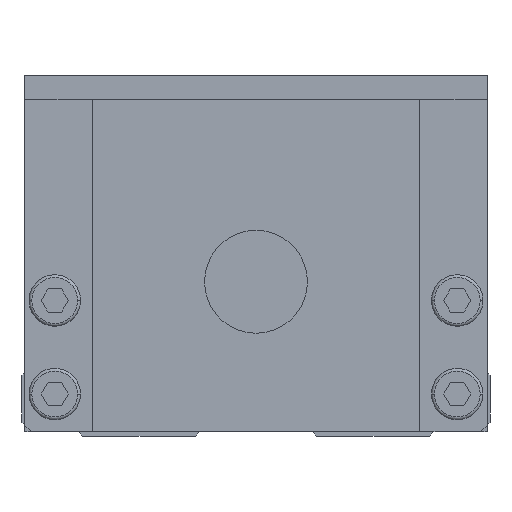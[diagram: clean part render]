
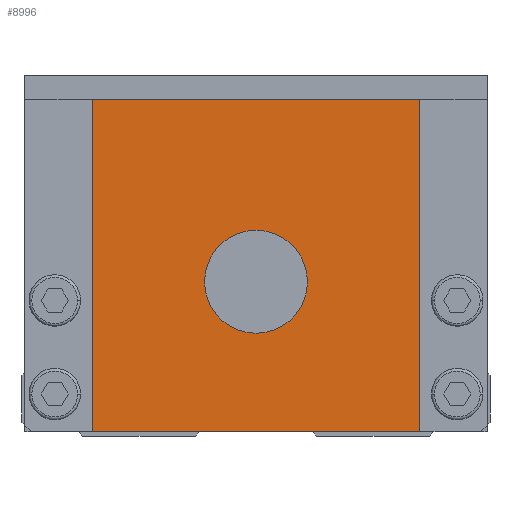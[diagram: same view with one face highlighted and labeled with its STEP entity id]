
A CAD part, front view. The second image highlights one B-rep face of the part: STEP entity #8996.
In plain terms, the highlighted planar face has unit normal (0, -1, 0).
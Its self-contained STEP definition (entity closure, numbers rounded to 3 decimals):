
#4442=VERTEX_POINT('',#11262);
#5188=EDGE_CURVE('',#7378,#6918,#12083,.T.);
#5360=VERTEX_POINT('',#12283);
#5556=EDGE_CURVE('',#5360,#4442,#12499,.T.);
#6062=EDGE_CURVE('',#5360,#7672,#13067,.T.);
#6470=EDGE_CURVE('',#6810,#7672,#13519,.T.);
#6566=EDGE_CURVE('',#4442,#6810,#13626,.T.);
#6810=VERTEX_POINT('',#13894);
#6918=VERTEX_POINT('',#14025);
#7378=VERTEX_POINT('',#14537);
#7622=EDGE_CURVE('',#6918,#7378,#14801,.T.);
#7672=VERTEX_POINT('',#14858);
#8996=ADVANCED_FACE('',(#16323,#16324),#16325,.F.);
#11262=CARTESIAN_POINT('',(17.5,0.0,36.0));
#12083=CIRCLE('',#20401,5.5);
#12283=CARTESIAN_POINT('',(-17.5,0.0,36.0));
#12499=LINE('',#21014,#21015);
#13067=LINE('',#21790,#21791);
#13519=LINE('',#22462,#22463);
#13626=LINE('',#22609,#22610);
#13894=CARTESIAN_POINT('',(17.5,0.0,0.5));
#14025=CARTESIAN_POINT('',(5.5,0.0,16.5));
#14537=CARTESIAN_POINT('',(-5.5,0.0,16.5));
#14801=CIRCLE('',#24310,5.5);
#14858=CARTESIAN_POINT('',(-17.5,0.0,0.5));
#16323=FACE_BOUND('',#26441,.T.);
#16324=FACE_OUTER_BOUND('',#26442,.T.);
#16325=PLANE('',#26443);
#20401=AXIS2_PLACEMENT_3D('',#30508,#30509,#30510);
#21014=CARTESIAN_POINT('',(0.0,0.0,36.0));
#21015=VECTOR('',#31027,1.0);
#21790=CARTESIAN_POINT('',(-17.5,0.0,18.25));
#21791=VECTOR('',#31714,1.0);
#22462=CARTESIAN_POINT('',(0.0,0.0,0.5));
#22463=VECTOR('',#32185,1.0);
#22609=CARTESIAN_POINT('',(17.5,0.0,18.25));
#22610=VECTOR('',#32322,1.0);
#24310=AXIS2_PLACEMENT_3D('',#33668,#33669,#33670);
#26441=EDGE_LOOP('',(#35386,#35387));
#26442=EDGE_LOOP('',(#35388,#35389,#35390,#35391));
#26443=AXIS2_PLACEMENT_3D('',#35392,#35393,#35394);
#30508=CARTESIAN_POINT('',(0.0,0.0,16.5));
#30509=DIRECTION('',(-0.0,1.0,0.0));
#30510=DIRECTION('',(1.0,0.0,0.0));
#31027=DIRECTION('',(1.0,0.0,0.0));
#31714=DIRECTION('',(0.0,0.0,-1.0));
#32185=DIRECTION('',(-1.0,0.0,0.0));
#32322=DIRECTION('',(0.0,0.0,-1.0));
#33668=CARTESIAN_POINT('',(0.0,0.0,16.5));
#33669=DIRECTION('',(-0.0,1.0,0.0));
#33670=DIRECTION('',(1.0,0.0,0.0));
#35386=ORIENTED_EDGE('',*,*,#7622,.T.);
#35387=ORIENTED_EDGE('',*,*,#5188,.T.);
#35388=ORIENTED_EDGE('',*,*,#6062,.T.);
#35389=ORIENTED_EDGE('',*,*,#6470,.F.);
#35390=ORIENTED_EDGE('',*,*,#6566,.F.);
#35391=ORIENTED_EDGE('',*,*,#5556,.F.);
#35392=CARTESIAN_POINT('',(0.0,0.0,18.25));
#35393=DIRECTION('',(0.0,1.0,0.0));
#35394=DIRECTION('',(0.0,0.0,1.0));
